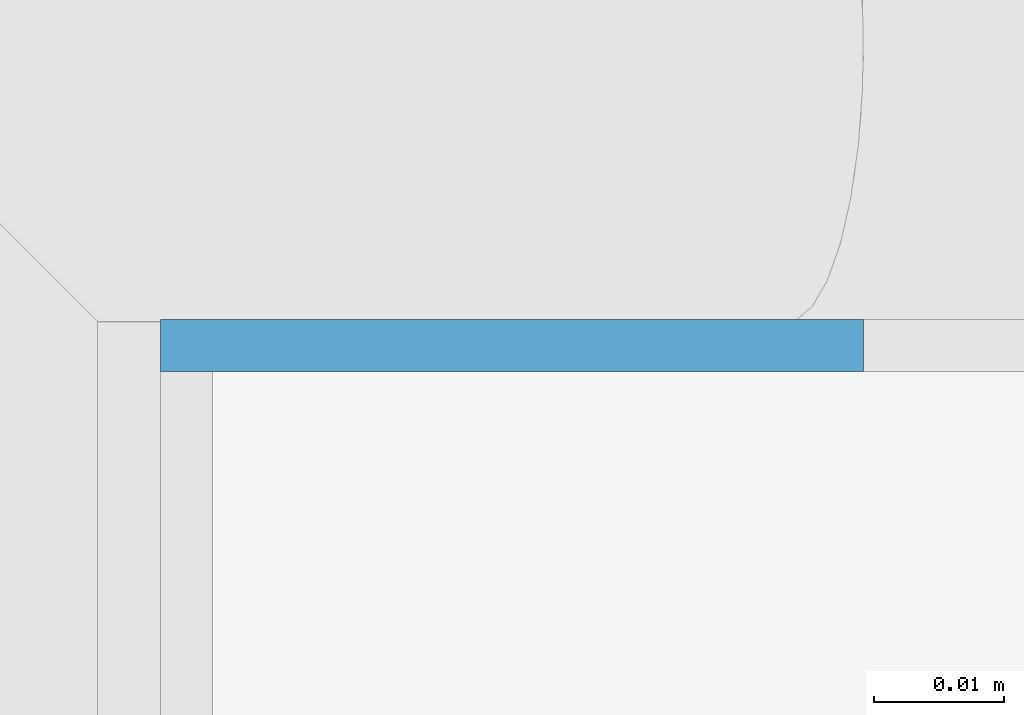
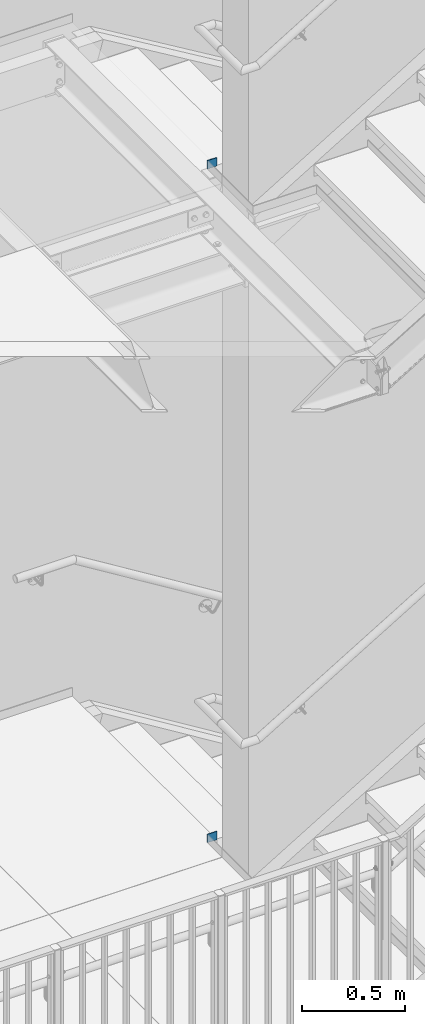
# One storey, part 46 of 410: 2 beams.
"""IFC2X3 building model written with IfcOpenShell, lengths in millimetres."""

from ifc_helpers import new_model, entity, si_unit, converted_unit, frame, origin, origin_with_axes, origin_2d, place, context, project, spatial, rectangle, extrude, material, element, save


model = new_model("IFC2X3")

# Units and contexts
model_context = context("Model", 3, precision=1e-09, world=origin_with_axes())
ifc_project = project(units=[si_unit("LENGTHUNIT", "METRE", prefix="MILLI"), si_unit("AREAUNIT", "SQUARE_METRE"), si_unit("VOLUMEUNIT", "CUBIC_METRE"), converted_unit("PLANEANGLEUNIT", "DEGREE", entity("IfcPlaneAngleMeasure", 0.01745329), si_unit("PLANEANGLEUNIT", "RADIAN"), dimensions=[0, 0, 0, 0, 0, 0, 0])], contexts=[model_context])

# Site, building, storey
site_placement = place(None, origin_with_axes())
site = spatial("IfcSite", under=ifc_project, at=site_placement, Name="mKR Teilneubau & Sanierung BA1 - Ostfildern", CompositionType="ELEMENT")
building_placement = place(site_placement, origin_with_axes())
building = spatial("IfcBuilding", under=site, at=building_placement, Name="Struktur 1", CompositionType="ELEMENT")
storey_placement = place(building_placement, origin_with_axes())
storey = spatial("IfcBuildingStorey", under=building, at=storey_placement, Name="Default Storey", CompositionType="ELEMENT", Elevation=0.0)

# Beams
ifc_material = material(Name="S235JR")
for number, where, z_axis, x_axis in (
    (1, (-1758.9995317, 17162.000999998, 25.0), (-1.0, 0.0, 0.0), (0.0, -1.0, 0.0)),
    (2, (-1758.9995317, 17162.000999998, 4025.0), (-1.0, 0.0, 0.0), (0.0, -1.0, 0.0)),
):
    element("IfcBeam", number, at=place(None, frame(where, z_axis=z_axis, x_axis=x_axis)), inside=storey, material=ifc_material, Name="-", ObjectType="-", context=model_context, shape_type="SweptSolid", body=[
        extrude(rectangle(XDim=4.0, YDim=50.0, at=origin_2d()), origin(), (0.0, 0.0, -1.0), 53.9995317),
    ])

save(model, "model.ifc")
